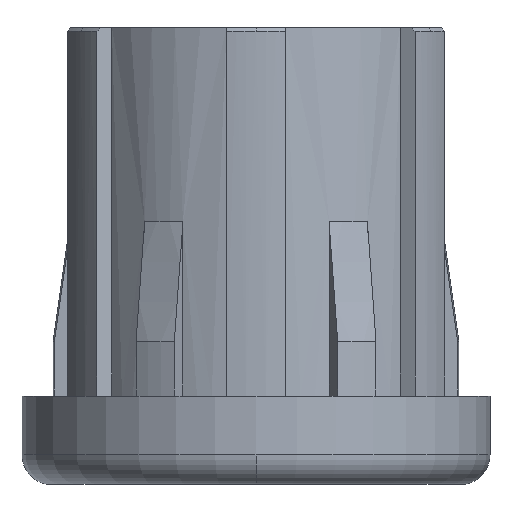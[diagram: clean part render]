
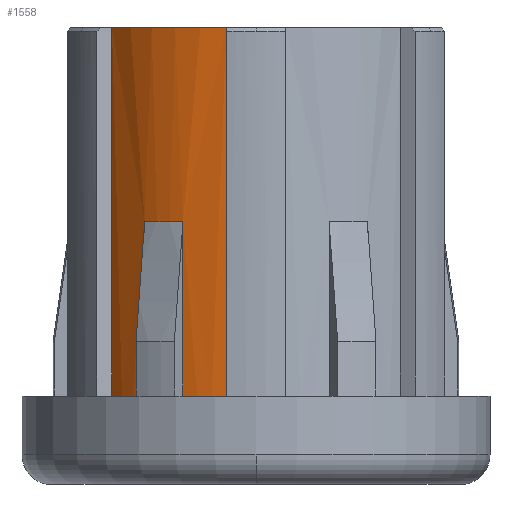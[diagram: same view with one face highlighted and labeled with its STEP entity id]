
A CAD part, front view. The second image highlights one B-rep face of the part: STEP entity #1558.
In plain terms, the highlighted cylindrical face has radius 12.6 mm (diameter 25.2 mm), a partial arc.
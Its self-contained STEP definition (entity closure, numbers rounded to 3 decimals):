
#43 = EDGE_CURVE ( 'NONE', #3386, #2950, #2782, .T. ) ;
#93 = CIRCLE ( 'NONE', #2484, 12.6 ) ;
#133 = ORIENTED_EDGE ( 'NONE', *, *, #2135, .T. ) ;
#137 = CARTESIAN_POINT ( 'NONE',  ( -9.774, -7.952, 5.25 ) ) ;
#138 = ORIENTED_EDGE ( 'NONE', *, *, #1311, .T. ) ;
#163 = LINE ( 'NONE', #2068, #3095 ) ;
#249 = DIRECTION ( 'NONE',  ( 1., 0., 0. ) ) ;
#355 = LINE ( 'NONE', #1720, #3371 ) ;
#413 = CARTESIAN_POINT ( 'NONE',  ( -4.956, -11.584, 30.25 ) ) ;
#493 = CARTESIAN_POINT ( 'NONE',  ( 0., 0., 17.086 ) ) ;
#498 = CARTESIAN_POINT ( 'NONE',  ( -7.554, -10.084, 17.086 ) ) ;
#524 = EDGE_CURVE ( 'NONE', #3013, #2116, #355, .T. ) ;
#542 = DIRECTION ( 'NONE',  ( 0., 0., 1. ) ) ;
#630 = VERTEX_POINT ( 'NONE', #1556 ) ;
#639 = VERTEX_POINT ( 'NONE', #3413 ) ;
#650 = CARTESIAN_POINT ( 'NONE',  ( -9.774, -7.952, 30.25 ) ) ;
#719 = CARTESIAN_POINT ( 'NONE',  ( 0., 0., 30.25 ) ) ;
#800 = DIRECTION ( 'NONE',  ( 0., 0., 1. ) ) ;
#812 = CARTESIAN_POINT ( 'NONE',  ( -7.554, -10.084, 5.25 ) ) ;
#833 = CARTESIAN_POINT ( 'NONE',  ( 0., 0., 5.25 ) ) ;
#920 = VECTOR ( 'NONE', #978, 1000. ) ;
#978 = DIRECTION ( 'NONE',  ( 0., 0., -1. ) ) ;
#1052 = DIRECTION ( 'NONE',  ( -1., 0., 0. ) ) ;
#1102 = CIRCLE ( 'NONE', #2441, 12.6 ) ;
#1187 = ORIENTED_EDGE ( 'NONE', *, *, #1256, .F. ) ;
#1195 = VECTOR ( 'NONE', #2314, 1000. ) ;
#1246 = AXIS2_PLACEMENT_3D ( 'NONE', #3120, #800, #3385 ) ;
#1256 = EDGE_CURVE ( 'NONE', #1487, #639, #163, .T. ) ;
#1311 = EDGE_CURVE ( 'NONE', #1935, #630, #2554, .T. ) ;
#1401 = EDGE_CURVE ( 'NONE', #1935, #3013, #93, .T. ) ;
#1460 = FACE_OUTER_BOUND ( 'NONE', #1913, .T. ) ;
#1487 = VERTEX_POINT ( 'NONE', #2450 ) ;
#1510 = DIRECTION ( 'NONE',  ( 0., 0., -1. ) ) ;
#1556 = CARTESIAN_POINT ( 'NONE',  ( -4.956, -11.584, 5.25 ) ) ;
#1558 = ADVANCED_FACE ( 'NONE', ( #1460 ), #2556, .T. ) ;
#1609 = CARTESIAN_POINT ( 'NONE',  ( -9.774, -7.952, 30.25 ) ) ;
#1693 = AXIS2_PLACEMENT_3D ( 'NONE', #719, #1771, #3368 ) ;
#1720 = CARTESIAN_POINT ( 'NONE',  ( -7.554, -10.084, 30.25 ) ) ;
#1771 = DIRECTION ( 'NONE',  ( 0., 0., 1. ) ) ;
#1819 = DIRECTION ( 'NONE',  ( 0., 0., -1. ) ) ;
#1828 = ORIENTED_EDGE ( 'NONE', *, *, #43, .T. ) ;
#1909 = ORIENTED_EDGE ( 'NONE', *, *, #524, .F. ) ;
#1913 = EDGE_LOOP ( 'NONE', ( #2623, #138, #133, #1187, #2699, #1828, #2526, #1909 ) ) ;
#1935 = VERTEX_POINT ( 'NONE', #3035 ) ;
#2068 = CARTESIAN_POINT ( 'NONE',  ( -2., -12.44, 30.25 ) ) ;
#2116 = VERTEX_POINT ( 'NONE', #812 ) ;
#2135 = EDGE_CURVE ( 'NONE', #630, #639, #1102, .T. ) ;
#2274 = EDGE_CURVE ( 'NONE', #2950, #2116, #3217, .T. ) ;
#2314 = DIRECTION ( 'NONE',  ( 0., 0., -1. ) ) ;
#2330 = DIRECTION ( 'NONE',  ( 0., 0., -1. ) ) ;
#2370 = CARTESIAN_POINT ( 'NONE',  ( 0., 0., 5.25 ) ) ;
#2441 = AXIS2_PLACEMENT_3D ( 'NONE', #2370, #542, #249 ) ;
#2450 = CARTESIAN_POINT ( 'NONE',  ( -2., -12.44, 30.25 ) ) ;
#2484 = AXIS2_PLACEMENT_3D ( 'NONE', #493, #1819, #1052 ) ;
#2526 = ORIENTED_EDGE ( 'NONE', *, *, #2274, .T. ) ;
#2554 = LINE ( 'NONE', #413, #920 ) ;
#2556 = CYLINDRICAL_SURFACE ( 'NONE', #1693, 12.6 ) ;
#2623 = ORIENTED_EDGE ( 'NONE', *, *, #1401, .F. ) ;
#2699 = ORIENTED_EDGE ( 'NONE', *, *, #2984, .F. ) ;
#2782 = LINE ( 'NONE', #650, #1195 ) ;
#2950 = VERTEX_POINT ( 'NONE', #137 ) ;
#2978 = CIRCLE ( 'NONE', #1246, 12.6 ) ;
#2979 = DIRECTION ( 'NONE',  ( 0., 0., 1. ) ) ;
#2984 = EDGE_CURVE ( 'NONE', #3386, #1487, #2978, .T. ) ;
#3013 = VERTEX_POINT ( 'NONE', #498 ) ;
#3035 = CARTESIAN_POINT ( 'NONE',  ( -4.956, -11.584, 17.086 ) ) ;
#3066 = AXIS2_PLACEMENT_3D ( 'NONE', #833, #2979, #3242 ) ;
#3095 = VECTOR ( 'NONE', #2330, 1000. ) ;
#3120 = CARTESIAN_POINT ( 'NONE',  ( 0., 0., 30.25 ) ) ;
#3217 = CIRCLE ( 'NONE', #3066, 12.6 ) ;
#3242 = DIRECTION ( 'NONE',  ( 1., 0., 0. ) ) ;
#3368 = DIRECTION ( 'NONE',  ( -1., 0., 0. ) ) ;
#3371 = VECTOR ( 'NONE', #1510, 1000. ) ;
#3385 = DIRECTION ( 'NONE',  ( 1., 0., 0. ) ) ;
#3386 = VERTEX_POINT ( 'NONE', #1609 ) ;
#3413 = CARTESIAN_POINT ( 'NONE',  ( -2., -12.44, 5.25 ) ) ;
